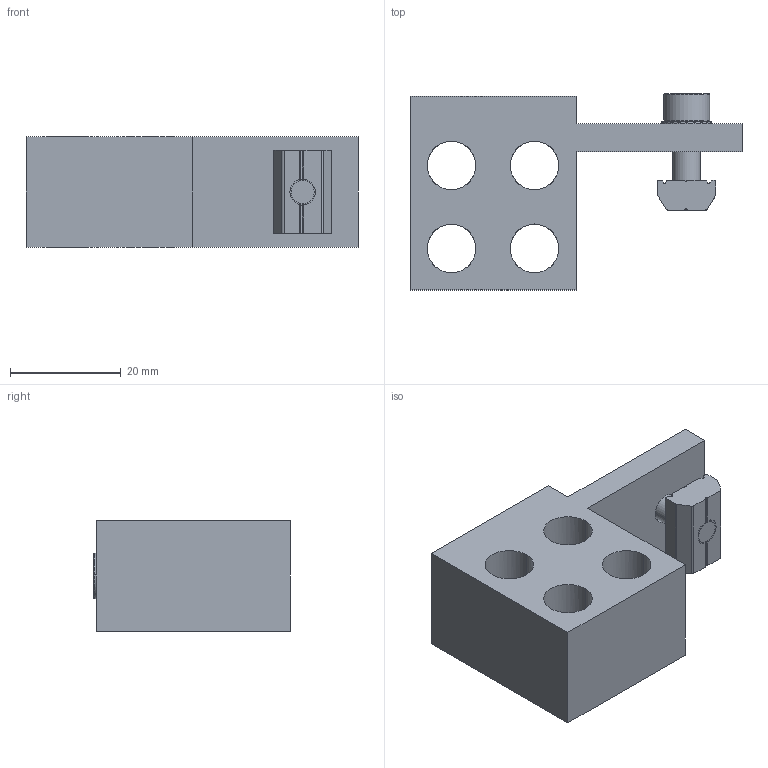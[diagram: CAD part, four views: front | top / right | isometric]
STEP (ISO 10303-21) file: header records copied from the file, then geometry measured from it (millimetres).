
FILE_DESCRIPTION (( 'STEP AP214' ), '1' );
FILE_NAME ('SMB2-D5G18T.STEP', '2023-01-06T08:47:11', ( 'Windows User' ), ( 'P R C' ), 'SwSTEP 2.0', 'SolidWorks 2018', '' );
FILE_SCHEMA (( 'AUTOMOTIVE_DESIGN' ));
Length unit declared in the file: millimetre
Products named in the file (5): PTS-M5; SMB2-D5G18T; PTC-M5L16; SMB2-D5G18; PTN-M5
Assembly tree (4 placements, depth 2):
  SMB2-D5G18T
    SMB2-D5G18
    PTC-M5L16
    PTS-M5
    PTN-M5
Bounding box: 60 x 35.45 x 20 mm (x, y, z)
Volume: 18261.8 mm3; surface area: 9707.9 mm2
Topology: 4 solids, 4 shells, 277 faces, 807 edges, 526 vertices
Faces by surface type: plane 204, cylinder 63, cone 10
Entity records: 9877 total; most frequent: CARTESIAN_POINT 1989, ORIENTED_EDGE 1606, DIRECTION 1555, EDGE_CURVE 803, AXIS2_PLACEMENT_3D 532, VERTEX_POINT 526, VECTOR 491, LINE 491
